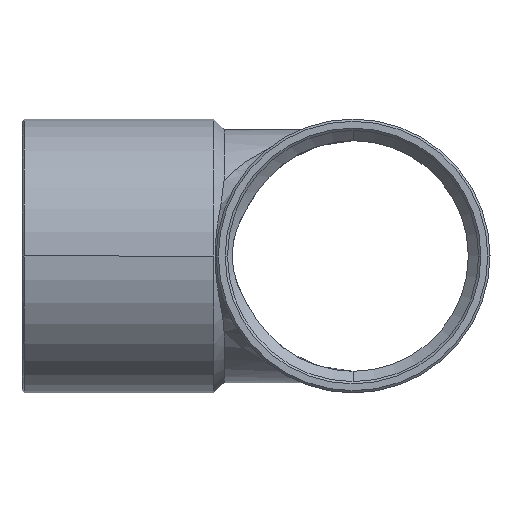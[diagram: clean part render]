
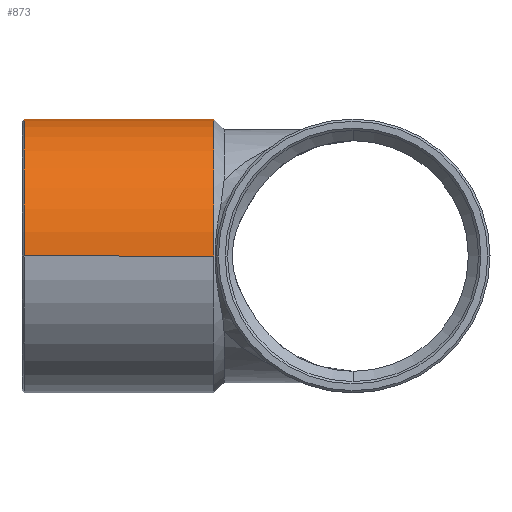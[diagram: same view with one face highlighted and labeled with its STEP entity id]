
A CAD part, left-side view. The second image highlights one B-rep face of the part: STEP entity #873.
In plain terms, the highlighted cylindrical face has radius 12 mm (diameter 24 mm), a partial arc.
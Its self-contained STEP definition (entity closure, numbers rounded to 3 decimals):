
#179=CARTESIAN_POINT('',(12.,12.2,0.));
#180=VERTEX_POINT('',#179);
#188=CARTESIAN_POINT('',(0.,12.2,12.0));
#189=VERTEX_POINT('',#188);
#190=CARTESIAN_POINT('',(0.,12.2,0.0));
#191=DIRECTION('',(0.0,1.0,0.0));
#192=DIRECTION('',(-1.0,0.0,0.0));
#193=AXIS2_PLACEMENT_3D('',#190,#191,#192);
#194=CIRCLE('',#193,12.0);
#195=EDGE_CURVE('',#189,#180,#194,.T.);
#833=CARTESIAN_POINT('',(0.,20.6,0.0));
#834=DIRECTION('',(0.,1.0,0.0));
#835=DIRECTION('',(-1.0,0.0,0.0));
#836=AXIS2_PLACEMENT_3D('',#833,#834,#835);
#837=CYLINDRICAL_SURFACE('',#836,12.);
#838=CARTESIAN_POINT('',(-12.,12.2,0.0));
#839=VERTEX_POINT('',#838);
#840=CARTESIAN_POINT('',(-12.,28.8,0.));
#841=VERTEX_POINT('',#840);
#842=CARTESIAN_POINT('',(-12.,12.2,0.0));
#843=DIRECTION('',(0.0,1.0,0.0));
#844=VECTOR('',#843,16.6);
#845=LINE('',#842,#844);
#846=EDGE_CURVE('',#839,#841,#845,.T.);
#847=ORIENTED_EDGE('',*,*,#846,.F.);
#848=CARTESIAN_POINT('',(0.,12.2,0.0));
#849=DIRECTION('',(0.0,1.0,0.0));
#850=DIRECTION('',(-1.0,0.0,0.0));
#851=AXIS2_PLACEMENT_3D('',#848,#849,#850);
#852=CIRCLE('',#851,12.0);
#853=EDGE_CURVE('',#839,#189,#852,.T.);
#854=ORIENTED_EDGE('',*,*,#853,.T.);
#855=ORIENTED_EDGE('',*,*,#195,.T.);
#856=CARTESIAN_POINT('',(12.,28.8,0.));
#857=VERTEX_POINT('',#856);
#858=CARTESIAN_POINT('',(12.,28.8,0.));
#859=DIRECTION('',(0.0,-1.0,0.0));
#860=VECTOR('',#859,16.6);
#861=LINE('',#858,#860);
#862=EDGE_CURVE('',#857,#180,#861,.T.);
#863=ORIENTED_EDGE('',*,*,#862,.F.);
#864=CARTESIAN_POINT('',(0.,28.8,0.0));
#865=DIRECTION('',(0.0,1.0,0.0));
#866=DIRECTION('',(1.0,0.0,0.0));
#867=AXIS2_PLACEMENT_3D('',#864,#865,#866);
#868=CIRCLE('',#867,12.);
#869=EDGE_CURVE('',#841,#857,#868,.T.);
#870=ORIENTED_EDGE('',*,*,#869,.F.);
#871=EDGE_LOOP('',(#847,#854,#855,#863,#870));
#872=FACE_OUTER_BOUND('',#871,.T.);
#873=ADVANCED_FACE('',(#872),#837,.T.);
